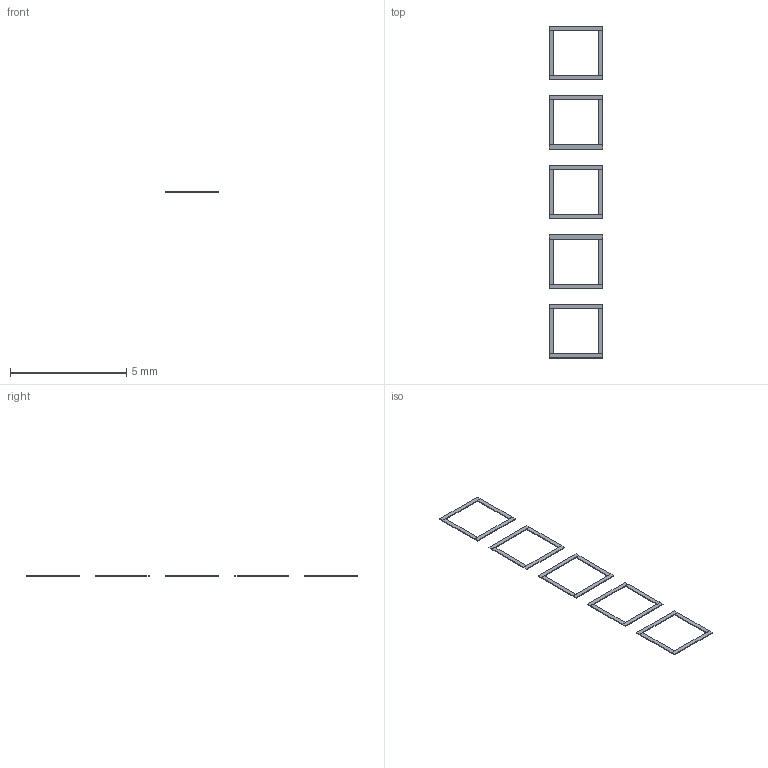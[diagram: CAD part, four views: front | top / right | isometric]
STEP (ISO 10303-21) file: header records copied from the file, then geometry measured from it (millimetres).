
FILE_DESCRIPTION(('FreeCAD Model'),'2;1');
FILE_NAME('Open CASCADE Shape Model','2026-09-23T12:07:01',('FreeCAD'),( 'FreeCAD'),'Open CASCADE STEP processor 7.8','FreeCAD','Unknown');
FILE_SCHEMA(('AUTOMOTIVE_DESIGN { 1 0 10303 214 1 1 1 1 }'));
Length unit declared in the file: millimetre
Products named in the file (1): Open CASCADE STEP translator 7.8 1
Bounding box: 2.3 x 14.3 x 0.04 mm (x, y, z)
Volume: 0.3 mm3; surface area: 18.5 mm2
Topology: 20 solids, 20 shells, 120 faces, 240 edges, 160 vertices
Faces by surface type: plane 120
Entity records: 3016 total; most frequent: CARTESIAN_POINT 521, DIRECTION 482, ORIENTED_EDGE 480, EDGE_CURVE 240, LINE 240, VECTOR 240, VERTEX_POINT 160, AXIS2_PLACEMENT_3D 121
